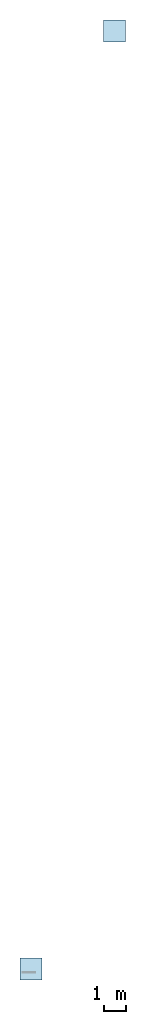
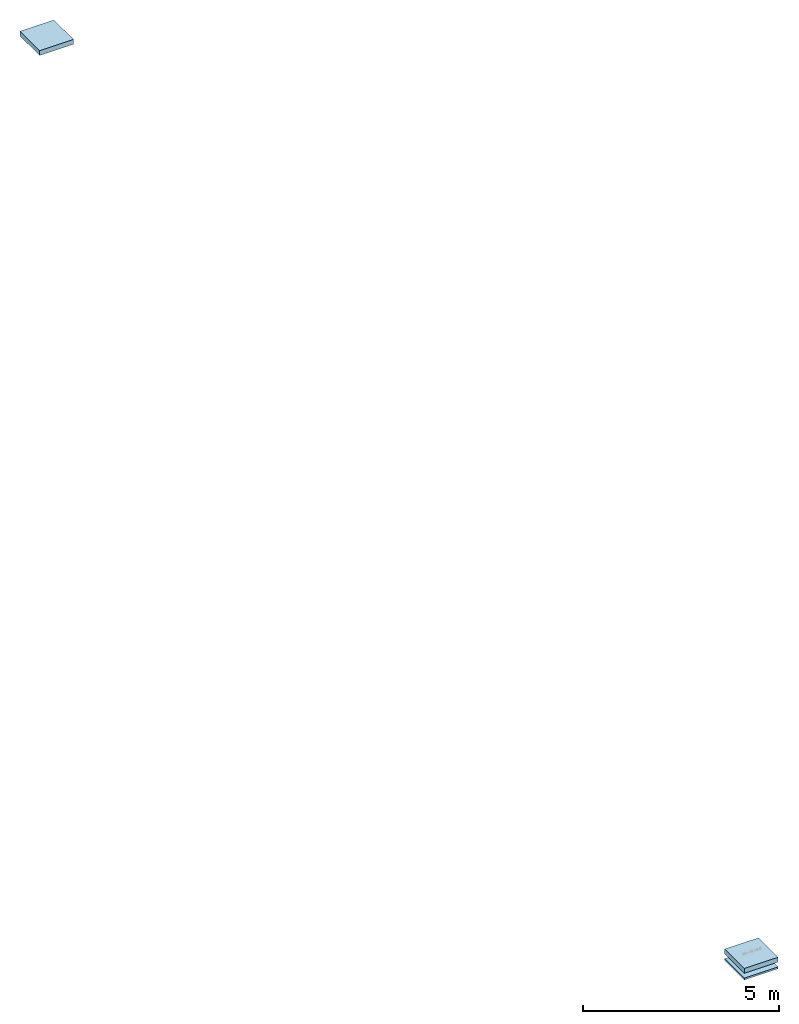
# Not in any storey, part 1 of 2: 2 roofs, 1 slab, 2 elements without a shape of their own.
"""IFC4 model written with IfcOpenShell, lengths in metres."""

import ifcopenshell
import ifcopenshell.guid

model = None  # the IFC model being written
_history = None  # IfcOwnerHistory: only IFC2X3 demands one
_inside = {}  # id of a spatial element -> (the spatial element, [elements in it])
_under = {}  # id of a project, library or spatial element -> (it, [spatial elements below it])
_declared = {}  # id of a project -> (the project, [libraries it declares])
_typed = {}  # id of a type object -> (the type object, [elements of that type])
_made_of = {}  # id of a material, layer set ... -> (it, [elements and type objects made of it])


def new_model(schema):
    """Start an empty IFC model of exactly this schema.

    Asked for "IFC4X3", IfcOpenShell would pick the latest addendum, in which some entities
    have other attributes; the version numbers below select the first issue.
    IFC2X3 requires an IfcOwnerHistory on every rooted entity: one is made here for all.
    """
    global model, _history
    if schema == "IFC4X3":
        model = ifcopenshell.file(schema_version=(4, 3, 0, 0))
    else:
        model = ifcopenshell.file(schema=schema)
    _inside.clear()
    _under.clear()
    _declared.clear()
    _typed.clear()
    _made_of.clear()
    _history = None
    if model.schema == "IFC2X3":
        org = make("IfcOrganization", Name="unknown")
        user = make(
            "IfcPersonAndOrganization",
            ThePerson=make("IfcPerson", FamilyName="unknown"),
            TheOrganization=org,
        )
        app = make(
            "IfcApplication",
            ApplicationDeveloper=org,
            Version="unknown",
            ApplicationFullName="unknown",
            ApplicationIdentifier="unknown",
        )
        _history = make(
            "IfcOwnerHistory",
            OwningUser=user,
            OwningApplication=app,
            ChangeAction="ADDED",
            CreationDate=0,
        )
    return model


def make(cls, **values):
    """One entity of the class cls with the attributes given. An attribute that is None is left unset."""
    return model.create_entity(
        cls, **{name: value for name, value in values.items() if value is not None}
    )


def entity(cls, *values):
    """Any entity or typed value of the class cls, its attributes in the order of the schema. None: left unset."""
    e = model.create_entity(cls)
    for i, value in enumerate(values):
        if value is not None:
            e[i] = value
    return e


def rooted(cls, **values):
    """An entity with a GlobalId (a new one), such as an element, a storey or a relation."""
    return make(cls, GlobalId=ifcopenshell.guid.new(), OwnerHistory=_history, **values)


def si_unit(unit_type, name, prefix=None):
    """IfcSIUnit, for example si_unit("LENGTHUNIT", "METRE", prefix="MILLI")."""
    return make("IfcSIUnit", UnitType=unit_type, Prefix=prefix, Name=name)


def converted_unit(unit_type, name, factor, base, dimensions=None, offset=None):
    """IfcConversionBasedUnit, such as the inch: factor (a typed value) times the base unit."""
    return make(
        "IfcConversionBasedUnit"
        if offset is None
        else "IfcConversionBasedUnitWithOffset",
        ConversionOffset=offset,
        Dimensions=None
        if dimensions is None
        else entity("IfcDimensionalExponents", *dimensions),
        UnitType=unit_type,
        Name=name,
        ConversionFactor=make(
            "IfcMeasureWithUnit", ValueComponent=factor, UnitComponent=base
        ),
    )


def derived_unit(unit_type, elements):
    """IfcDerivedUnit: a product of units, each with its exponent."""
    return make(
        "IfcDerivedUnit",
        Elements=[
            make("IfcDerivedUnitElement", Unit=unit, Exponent=power)
            for unit, power in elements
        ],
        UnitType=unit_type,
    )


def assignment(units):
    """IfcUnitAssignment: the units of a project."""
    return None if units is None else make("IfcUnitAssignment", Units=units)


def point(xyz):
    """IfcCartesianPoint."""
    return None if xyz is None else make("IfcCartesianPoint", Coordinates=xyz)


def direction(xyz):
    """IfcDirection."""
    return None if xyz is None else make("IfcDirection", DirectionRatios=xyz)


def frame(location, z_axis=None, x_axis=None):
    """IfcAxis2Placement3D, a coordinate frame: its origin and axes. An axis left out is left unset."""
    return make(
        "IfcAxis2Placement3D",
        Location=point(location),
        Axis=direction(z_axis),
        RefDirection=direction(x_axis),
    )


def origin():
    """The frame at (0, 0, 0) with its axes left unset."""
    return frame((0.0, 0.0, 0.0))


def place(relative_to, where):
    """IfcLocalPlacement: puts the frame where relative to a parent placement (None: the world)."""
    return make(
        "IfcLocalPlacement", PlacementRelTo=relative_to, RelativePlacement=where
    )


def context(
    kind, dimensions, precision=None, world=None, true_north=None, identifier=None
):
    """IfcGeometricRepresentationContext, for example the 3D "Model" context."""
    return make(
        "IfcGeometricRepresentationContext",
        ContextIdentifier=identifier,
        ContextType=kind,
        CoordinateSpaceDimension=dimensions,
        Precision=precision,
        WorldCoordinateSystem=world,
        TrueNorth=true_north,
    )


def subcontext(parent, identifier, kind, view, scale=None):
    """IfcGeometricRepresentationSubContext, for example "Body" below "Model"."""
    return make(
        "IfcGeometricRepresentationSubContext",
        ContextIdentifier=identifier,
        ContextType=kind,
        ParentContext=parent,
        TargetScale=scale,
        TargetView=view,
    )


def project(units=None, contexts=None):
    """IfcProject with its units and contexts."""
    return rooted(
        "IfcProject",
        Name="project",
        RepresentationContexts=contexts,
        UnitsInContext=assignment(units),
    )


def spatial(cls, under=None, at=None, **own):
    """A site, building, storey or space (cls), placed at a placement, below another one or the project."""
    s = rooted(cls, ObjectPlacement=at, **own)
    if under is not None:
        _under.setdefault(under.id(), (under, []))[1].append(s)
    return s


def point_list(points):
    """IfcCartesianPointList2D or 3D."""
    cls = (
        "IfcCartesianPointList2D" if len(points[0]) == 2 else "IfcCartesianPointList3D"
    )
    return make(cls, CoordList=points)


def indexed_curve(points, segments=None, self_intersect=None):
    """IfcIndexedPolyCurve: lines and arcs through numbered points (the first is 1)."""
    return make(
        "IfcIndexedPolyCurve",
        Points=point_list(points),
        Segments=segments,
        SelfIntersect=self_intersect,
    )


def outline(outer, holes=None, kind="AREA"):
    """IfcArbitraryClosedProfileDef: a profile drawn as a closed curve; with holes, ...WithVoids."""
    if holes is None:
        return make("IfcArbitraryClosedProfileDef", ProfileType=kind, OuterCurve=outer)
    return make(
        "IfcArbitraryProfileDefWithVoids",
        ProfileType=kind,
        OuterCurve=outer,
        InnerCurves=holes,
    )


def extrude(swept, where, along, depth):
    """IfcExtrudedAreaSolid: the profile swept, set in the frame where, extruded along a direction by depth."""
    return make(
        "IfcExtrudedAreaSolid",
        SweptArea=swept,
        Position=where,
        ExtrudedDirection=direction(along),
        Depth=depth,
    )


def shape(context_of_items, identifier, shape_type, items):
    """IfcShapeRepresentation: the items that make up one representation, for example the "Body"."""
    return make(
        "IfcShapeRepresentation",
        ContextOfItems=context_of_items,
        RepresentationIdentifier=identifier,
        RepresentationType=shape_type,
        Items=items,
    )


def material(Name=None, Category=None):
    """IfcMaterial."""
    return make("IfcMaterial", Name=Name, Category=Category)


def constituent(of_material, Name=None, Category=None, fraction=None):
    """IfcMaterialConstituent: one of the materials an element consists of."""
    return make(
        "IfcMaterialConstituent",
        Name=Name,
        Material=of_material,
        Fraction=fraction,
        Category=Category,
    )


def constituent_set(constituents=None, Name=None):
    """IfcMaterialConstituentSet."""
    return make(
        "IfcMaterialConstituentSet", Name=Name, MaterialConstituents=constituents
    )


def made_of(thing, what):
    """Note that an element or type object is made of a material, layer set ...; save() writes the relation."""
    if what is not None:
        _made_of.setdefault(what.id(), (what, []))[1].append(thing)
    return thing


def type_object(cls, material=None, **own):
    """A type object (cls), such as IfcWallType, which elements share."""
    return made_of(rooted(cls, **own), material)


def element(
    cls,
    number,
    at=None,
    inside=None,
    cuts=None,
    type_object=None,
    material=None,
    context=None,
    identifier="Body",
    shape_type=None,
    held_by="IfcProductDefinitionShape",
    body=None,
    shapes=None,
    **own,
):
    """One element of the class cls, such as IfcWall. Its Tag is "e" and its number.

    at: its placement. inside: the storey or other place that contains it. cuts: it is an
    opening in that element (IfcRelVoidsElement). A single representation is given by context,
    identifier, shape_type and body (its items); several are given by shapes. held_by: the class
    of the entity that holds the representations. save() writes the other relations.
    """
    e = rooted(cls, Tag="e%d" % number, ObjectPlacement=at, **own)
    if body is not None:
        shapes = [shape(context, identifier, shape_type, body)]
    if shapes is not None:
        e.Representation = make(held_by, Representations=shapes)
    if inside is not None:
        _inside.setdefault(inside.id(), (inside, []))[1].append(e)
    if cuts is not None:
        rooted(
            "IfcRelVoidsElement", RelatingBuildingElement=cuts, RelatedOpeningElement=e
        )
    if type_object is not None:
        _typed.setdefault(type_object.id(), (type_object, []))[1].append(e)
    return made_of(e, material)


def aggregate(whole, parts):
    """IfcRelAggregates: a whole, such as a stair, and the parts it consists of."""
    return rooted("IfcRelAggregates", RelatingObject=whole, RelatedObjects=parts)


def save(model, path):
    """Write the relations noted so far, then the file.

    IfcRelAggregates (storeys below a building ...), IfcRelContainedInSpatialStructure (elements
    in a storey), IfcRelDefinesByType, IfcRelAssociatesMaterial and IfcRelDeclares: one each for
    every whole, place, type object, material and project.
    """
    for whole, parts in _under.values():
        aggregate(whole, parts)
    for where, things in _inside.values():
        rooted(
            "IfcRelContainedInSpatialStructure",
            RelatedElements=things,
            RelatingStructure=where,
        )
    for kind, things in _typed.values():
        rooted("IfcRelDefinesByType", RelatedObjects=things, RelatingType=kind)
    for what, things in _made_of.values():
        rooted("IfcRelAssociatesMaterial", RelatedObjects=things, RelatingMaterial=what)
    for by, libraries in _declared.values():
        rooted("IfcRelDeclares", RelatingContext=by, RelatedDefinitions=libraries)
    model.write(path)


model = new_model("IFC4")

# Units and contexts
model_context = context("Model", 3, precision=1e-05, world=origin(), true_north=direction((6.123031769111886e-17, 1.0)))
body_context = subcontext(model_context, "Body", "Model", "MODEL_VIEW")
ifc_project = project(units=[si_unit("LENGTHUNIT", "METRE"), si_unit("AREAUNIT", "SQUARE_METRE"), si_unit("VOLUMEUNIT", "CUBIC_METRE"), converted_unit("PLANEANGLEUNIT", "DEGREE", entity("IfcRatioMeasure", 0.017453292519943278), si_unit("PLANEANGLEUNIT", "RADIAN"), dimensions=[0, 0, 0, 0, 0, 0, 0]), si_unit("MASSUNIT", "GRAM", prefix="KILO"), derived_unit("MASSDENSITYUNIT", [(si_unit("MASSUNIT", "GRAM", prefix="KILO"), 1), (si_unit("LENGTHUNIT", "METRE"), -3)]), derived_unit("IONCONCENTRATIONUNIT", [(si_unit("MASSUNIT", "GRAM", prefix="KILO"), 1), (si_unit("LENGTHUNIT", "METRE"), -3)]), derived_unit("MOMENTOFINERTIAUNIT", [(si_unit("LENGTHUNIT", "METRE"), 4)]), si_unit("TIMEUNIT", "SECOND"), si_unit("FREQUENCYUNIT", "HERTZ"), si_unit("THERMODYNAMICTEMPERATUREUNIT", "DEGREE_CELSIUS"), derived_unit("THERMALTRANSMITTANCEUNIT", [(si_unit("MASSUNIT", "GRAM", prefix="KILO"), 1), (si_unit("THERMODYNAMICTEMPERATUREUNIT", "KELVIN"), -1), (si_unit("TIMEUNIT", "SECOND"), -3)]), derived_unit("THERMALCONDUCTANCEUNIT", [(si_unit("MASSUNIT", "GRAM", prefix="KILO"), 1), (si_unit("THERMODYNAMICTEMPERATUREUNIT", "KELVIN"), -1), (si_unit("TIMEUNIT", "SECOND"), -3), (si_unit("LENGTHUNIT", "METRE"), 1)]), derived_unit("VOLUMETRICFLOWRATEUNIT", [(si_unit("LENGTHUNIT", "METRE"), 3), (si_unit("TIMEUNIT", "SECOND"), -1)]), derived_unit("MASSFLOWRATEUNIT", [(si_unit("MASSUNIT", "GRAM", prefix="KILO"), 1), (si_unit("TIMEUNIT", "SECOND"), -1)]), derived_unit("ROTATIONALFREQUENCYUNIT", [(si_unit("TIMEUNIT", "SECOND"), -1)]), si_unit("ELECTRICCURRENTUNIT", "AMPERE"), si_unit("ELECTRICVOLTAGEUNIT", "VOLT"), si_unit("POWERUNIT", "WATT"), si_unit("FORCEUNIT", "NEWTON", prefix="KILO"), si_unit("ILLUMINANCEUNIT", "LUX"), si_unit("LUMINOUSFLUXUNIT", "LUMEN"), si_unit("LUMINOUSINTENSITYUNIT", "CANDELA"), derived_unit("USERDEFINED", [(si_unit("MASSUNIT", "GRAM", prefix="KILO"), -1), (si_unit("LENGTHUNIT", "METRE"), -2), (si_unit("TIMEUNIT", "SECOND"), 3), (si_unit("LUMINOUSFLUXUNIT", "LUMEN"), 1)]), derived_unit("USERDEFINED", [(si_unit("MASSUNIT", "GRAM", prefix="KILO"), 1), (si_unit("TIMEUNIT", "SECOND"), -3), (si_unit("LENGTHUNIT", "METRE"), 3), (si_unit("ELECTRICCURRENTUNIT", "AMPERE"), -2)]), derived_unit("SOUNDPOWERUNIT", [(si_unit("MASSUNIT", "GRAM", prefix="KILO"), 1), (si_unit("TIMEUNIT", "SECOND"), -3), (si_unit("LENGTHUNIT", "METRE"), 2)]), derived_unit("SOUNDPRESSUREUNIT", [(si_unit("MASSUNIT", "GRAM", prefix="KILO"), 1), (si_unit("LENGTHUNIT", "METRE"), -1), (si_unit("TIMEUNIT", "SECOND"), -2)]), derived_unit("LINEARVELOCITYUNIT", [(si_unit("LENGTHUNIT", "METRE"), 1), (si_unit("TIMEUNIT", "SECOND"), -1)]), si_unit("PRESSUREUNIT", "PASCAL"), derived_unit("USERDEFINED", [(si_unit("MASSUNIT", "GRAM", prefix="KILO"), 1), (si_unit("LENGTHUNIT", "METRE"), -2), (si_unit("TIMEUNIT", "SECOND"), -2)]), derived_unit("LINEARFORCEUNIT", [(si_unit("MASSUNIT", "GRAM", prefix="KILO"), 1), (si_unit("TIMEUNIT", "SECOND"), -2)]), derived_unit("PLANARFORCEUNIT", [(si_unit("MASSUNIT", "GRAM", prefix="KILO"), 1), (si_unit("LENGTHUNIT", "METRE"), -1), (si_unit("TIMEUNIT", "SECOND"), -2)]), derived_unit("SPECIFICHEATCAPACITYUNIT", [(si_unit("THERMODYNAMICTEMPERATUREUNIT", "KELVIN"), -1), (si_unit("LENGTHUNIT", "METRE"), 2), (si_unit("TIMEUNIT", "SECOND"), -2)]), derived_unit("HEATINGVALUEUNIT", [(si_unit("LENGTHUNIT", "METRE"), 2), (si_unit("TIMEUNIT", "SECOND"), -2)]), derived_unit("VAPORPERMEABILITYUNIT", [(si_unit("LENGTHUNIT", "METRE"), -1), (si_unit("TIMEUNIT", "SECOND"), 1)]), derived_unit("DYNAMICVISCOSITYUNIT", [(si_unit("MASSUNIT", "GRAM", prefix="KILO"), 1), (si_unit("TIMEUNIT", "SECOND"), -1), (si_unit("LENGTHUNIT", "METRE"), -1)]), derived_unit("THERMALEXPANSIONCOEFFICIENTUNIT", [(si_unit("THERMODYNAMICTEMPERATUREUNIT", "KELVIN"), -1)]), derived_unit("MODULUSOFELASTICITYUNIT", [(si_unit("MASSUNIT", "GRAM", prefix="KILO"), 1), (si_unit("LENGTHUNIT", "METRE"), -1), (si_unit("TIMEUNIT", "SECOND"), -2)]), derived_unit("ISOTHERMALMOISTURECAPACITYUNIT", [(si_unit("LENGTHUNIT", "METRE"), 3), (si_unit("MASSUNIT", "GRAM", prefix="KILO"), -1)]), derived_unit("MOISTUREDIFFUSIVITYUNIT", [(si_unit("TIMEUNIT", "SECOND"), -1), (si_unit("LENGTHUNIT", "METRE"), 2)])], contexts=[model_context])

# Site
site_placement = place(None, origin())
site = spatial("IfcSite", under=ifc_project, at=site_placement, Name="Default", CompositionType="ELEMENT")

# Assembly, roofs, slab
assembly_placement = place(site_placement, origin())
assembly = element("IfcElementAssembly", 1, at=assembly_placement, inside=site, Name="Dächer Baugruppe:fbimSg_Roof_bc_WOD_vis_at_NTR_natuREbuilt_SD-HS-HLÜ_GK3_55cm", ObjectType="Dächer Baugruppe:fbimSg_Roof_bc_WOD_vis_at_NTR_natuREbuilt_SD-HS-HLÜ_GK3_55cm", AssemblyPlace="NOTDEFINED", PredefinedType="USERDEFINED")
roof_1_placement = place(assembly_placement, frame((3.7789376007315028, 42.514692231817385, 1.6414449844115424)))
roof_1 = element("IfcRoof", 2, at=roof_1_placement, Name="Basisdach:fbimSg_Roof_sb_WOD_vis_at_NTR_natuREbuilt_SD-HS-HLÜ_GK3_k_26cm", ObjectType="Basisdach:fbimSg_Roof_sb_WOD_vis_at_NTR_natuREbuilt_SD-HS-HLÜ_GK3_k_26cm", PredefinedType="NOTDEFINED")
ifc_material_1 = material(Name="fbim_12400520_AT_Konstruktionsvollholz_Fichte")
slab_type = type_object("IfcSlabType", Name="Basisdach:fbimSg_Roof_sb_WOD_vis_at_NTR_natuREbuilt_SD-HS-HLÜ_GK3_k_26cm", PredefinedType="ROOF")
slab_placement = place(roof_1_placement, frame((3.7789376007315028, 42.514692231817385, 1.6414449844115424)))
slab = element("IfcSlab", 3, at=slab_placement, type_object=slab_type, material=ifc_material_1, Name="Basisdach:fbimSg_Roof_sb_WOD_vis_at_NTR_natuREbuilt_SD-HS-HLÜ_GK3_k_26cm", ObjectType="Basisdach:fbimSg_Roof_sb_WOD_vis_at_NTR_natuREbuilt_SD-HS-HLÜ_GK3_k_26cm", PredefinedType="ROOF", context=body_context, shape_type="SweptSolid", body=[
    extrude(outline(indexed_curve([(-0.5, 0.49999999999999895), (-0.5, -0.49999999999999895), (0.5, -0.49999999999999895), (0.5, 0.49999999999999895), (-0.5, 0.49999999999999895)], self_intersect=False)), frame((0.5, 0.49999999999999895, 0.0)), (0.0, 0.0, 1.0), 0.15000000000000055),
])
aggregate(roof_1, [slab])
ifc_material_2 = material(Name="fbim_12451505_AT_001_Tondachstein")
ifc_constituent_1 = constituent(ifc_material_2, Name="fbim_12451505_AT_001_Tondachstein")
ifc_material_3 = material(Name="fbim_12400520_AT_001_Vollholz_Lattung_Fichte")
ifc_constituent_2 = constituent(ifc_material_3, Name="fbim_12400520_AT_001_Vollholz_Lattung_Fichte")
ifc_constituent_3 = constituent(ifc_material_3, Name="fbim_12400520_AT_001_Vollholz_Lattung_Fichte (2)")
ifc_material_4 = material(Name="fbim_14100530_AT_Holzfaserdaemmung")
ifc_constituent_4 = constituent(ifc_material_4, Name="fbim_14100530_AT_Holzfaserdaemmung")
ifc_material_5 = material(Name="OENORM A6240 Dämmstoff (Weich)")
ifc_constituent_5 = constituent(ifc_material_5, Name="OENORM A6240 Dämmstoff (Weich)")
ifc_constituent_set_1 = constituent_set(constituents=[ifc_constituent_1, ifc_constituent_2, ifc_constituent_3, ifc_constituent_4, ifc_constituent_5], Name="Basisdach:fbimSg_Roof_dp_INH_vis_at_NTR_natuREbuilt_SD-HS-HLÜ_GK3_o_14")
roof_type_1 = type_object("IfcRoofType", Name="Basisdach:fbimSg_Roof_dp_INH_vis_at_NTR_natuREbuilt_SD-HS-HLÜ_GK3_o_14", PredefinedType="NOTDEFINED")
roof_2_placement = place(assembly_placement, origin())
roof_2 = element("IfcRoof", 4, at=roof_2_placement, type_object=roof_type_1, material=ifc_constituent_set_1, Name="Basisdach:fbimSg_Roof_dp_INH_vis_at_NTR_natuREbuilt_SD-HS-HLÜ_GK3_o_14", ObjectType="Basisdach:fbimSg_Roof_dp_INH_vis_at_NTR_natuREbuilt_SD-HS-HLÜ_GK3_o_14", PredefinedType="NOTDEFINED", context=body_context, shape_type="SweptSolid", body=[
    extrude(outline(indexed_curve([(-0.49999999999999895, -0.5), (0.49999999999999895, -0.5), (0.49999999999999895, 0.4999999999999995), (-0.49999999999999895, 0.4999999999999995), (-0.49999999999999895, -0.5)], self_intersect=False)), frame((4.278937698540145, 43.014692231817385, 1.7914449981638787), z_axis=(0.0, 0.0, 1.0), x_axis=(0.0, -1.0, 0.0)), (0.0, 0.0, 1.0), 0.15000000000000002),
])
ifc_material_6 = material(Name="fbim_12401520_AT_OSB")
ifc_constituent_6 = constituent(ifc_material_6, Name="fbim_12401520_AT_OSB")
ifc_constituent_7 = constituent(ifc_material_5, Name="OENORM A6240 Dämmstoff (Weich)")
ifc_material_7 = material(Name="fbim_16101505_AT_Gipsfaserplatte", Category="Gipsputz")
ifc_constituent_8 = constituent(ifc_material_7, Name="fbim_16101505_AT_Gipsfaserplatte", Category="Gipsputz")
ifc_constituent_set_2 = constituent_set(constituents=[ifc_constituent_6, ifc_constituent_7, ifc_constituent_8], Name="Basisdach:fbimSg_Roof_dp_DRW_vis_at_NTR_natuREbuilt_SD-HS-HLÜ_GK3_u_6cm")
roof_type_2 = type_object("IfcRoofType", Name="Basisdach:fbimSg_Roof_dp_DRW_vis_at_NTR_natuREbuilt_SD-HS-HLÜ_GK3_u_6cm", PredefinedType="NOTDEFINED")
roof_3_placement = place(assembly_placement, origin())
roof_3 = element("IfcRoof", 5, at=roof_3_placement, type_object=roof_type_2, material=ifc_constituent_set_2, Name="Basisdach:fbimSg_Roof_dp_DRW_vis_at_NTR_natuREbuilt_SD-HS-HLÜ_GK3_u_6cm", ObjectType="Basisdach:fbimSg_Roof_dp_DRW_vis_at_NTR_natuREbuilt_SD-HS-HLÜ_GK3_u_6cm", PredefinedType="NOTDEFINED", context=body_context, shape_type="SweptSolid", body=[
    extrude(outline(indexed_curve([(-0.49999999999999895, -0.5), (0.49999999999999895, -0.5), (0.49999999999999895, 0.4999999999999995), (-0.49999999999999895, 0.4999999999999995), (-0.49999999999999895, -0.5)], self_intersect=False)), frame((4.278937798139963, 43.014692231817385, 1.5834449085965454), z_axis=(0.0, 0.0, 1.0), x_axis=(0.0, -1.0, 0.0)), (0.0, 0.0, 1.0), 0.05799999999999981),
])
aggregate(assembly, [roof_1, roof_2, roof_3])

save(model, "model.ifc")
